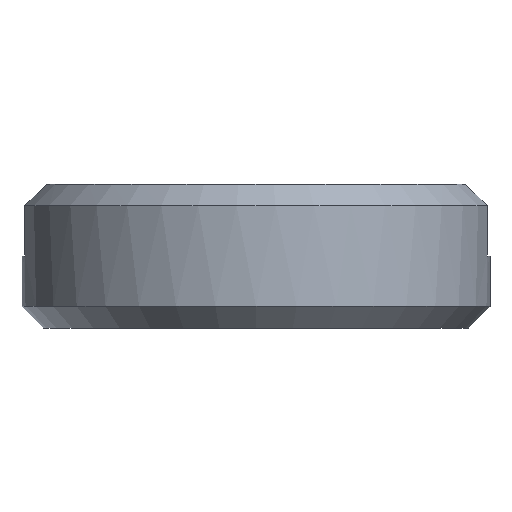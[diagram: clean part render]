
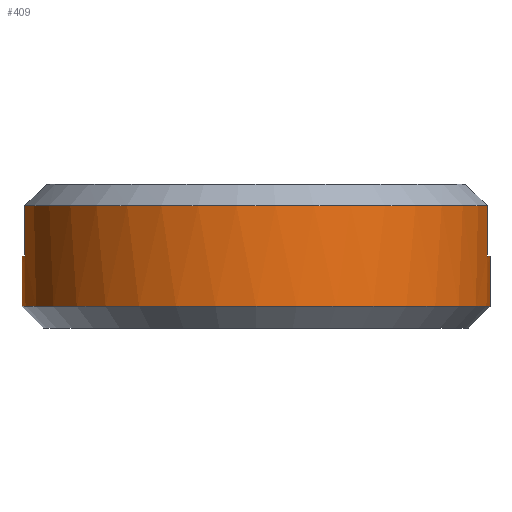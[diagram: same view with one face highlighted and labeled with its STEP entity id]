
A CAD part, front view. The second image highlights one B-rep face of the part: STEP entity #409.
In plain terms, the highlighted cylindrical face has radius 3.25 mm (diameter 6.5 mm), a partial arc.
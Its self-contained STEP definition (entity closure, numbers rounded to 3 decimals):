
#6 = CARTESIAN_POINT ( 'NONE',  ( -3.211, -0.5, 1. ) ) ;
#26 = ORIENTED_EDGE ( 'NONE', *, *, #128, .T. ) ;
#43 = LINE ( 'NONE', #225, #147 ) ;
#45 = DIRECTION ( 'NONE',  ( 0., 0., -1. ) ) ;
#47 = CARTESIAN_POINT ( 'NONE',  ( 0., 0., 1. ) ) ;
#57 = DIRECTION ( 'NONE',  ( 0., 0., -1. ) ) ;
#72 = CYLINDRICAL_SURFACE ( 'NONE', #216, 3.25 ) ;
#74 = CARTESIAN_POINT ( 'NONE',  ( -3.25, 0., 2. ) ) ;
#78 = CARTESIAN_POINT ( 'NONE',  ( 3.25, 0., 0.3 ) ) ;
#89 = LINE ( 'NONE', #272, #159 ) ;
#101 = AXIS2_PLACEMENT_3D ( 'NONE', #47, #355, #357 ) ;
#110 = EDGE_LOOP ( 'NONE', ( #375, #530, #193, #302, #26, #368, #561, #240 ) ) ;
#117 = DIRECTION ( 'NONE',  ( 0., 0., -1. ) ) ;
#121 = CIRCLE ( 'NONE', #555, 3.25 ) ;
#128 = EDGE_CURVE ( 'NONE', #340, #227, #89, .T. ) ;
#147 = VECTOR ( 'NONE', #179, 1000. ) ;
#159 = VECTOR ( 'NONE', #45, 1000. ) ;
#169 = CARTESIAN_POINT ( 'NONE',  ( 3.211, -0.5, 1. ) ) ;
#179 = DIRECTION ( 'NONE',  ( 0., 0., -1. ) ) ;
#193 = ORIENTED_EDGE ( 'NONE', *, *, #384, .T. ) ;
#194 = VECTOR ( 'NONE', #479, 1000. ) ;
#216 = AXIS2_PLACEMENT_3D ( 'NONE', #432, #117, #299 ) ;
#218 = VERTEX_POINT ( 'NONE', #381 ) ;
#225 = CARTESIAN_POINT ( 'NONE',  ( 3.25, 0., 2. ) ) ;
#227 = VERTEX_POINT ( 'NONE', #6 ) ;
#230 = EDGE_CURVE ( 'NONE', #509, #218, #506, .T. ) ;
#240 = ORIENTED_EDGE ( 'NONE', *, *, #529, .T. ) ;
#241 = DIRECTION ( 'NONE',  ( 1., 0., 0. ) ) ;
#248 = DIRECTION ( 'NONE',  ( 0., 0., 1. ) ) ;
#267 = AXIS2_PLACEMENT_3D ( 'NONE', #404, #401, #565 ) ;
#272 = CARTESIAN_POINT ( 'NONE',  ( -3.211, -0.5, 2. ) ) ;
#292 = VERTEX_POINT ( 'NONE', #514 ) ;
#299 = DIRECTION ( 'NONE',  ( -1., 0., 0. ) ) ;
#302 = ORIENTED_EDGE ( 'NONE', *, *, #469, .T. ) ;
#322 = EDGE_CURVE ( 'NONE', #525, #520, #347, .T. ) ;
#328 = AXIS2_PLACEMENT_3D ( 'NONE', #545, #248, #456 ) ;
#338 = DIRECTION ( 'NONE',  ( 0., 0., 1. ) ) ;
#340 = VERTEX_POINT ( 'NONE', #563 ) ;
#342 = CIRCLE ( 'NONE', #101, 3.25 ) ;
#347 = LINE ( 'NONE', #74, #194 ) ;
#353 = CARTESIAN_POINT ( 'NONE',  ( -3.25, 0., 0.3 ) ) ;
#355 = DIRECTION ( 'NONE',  ( 0., 0., 1. ) ) ;
#357 = DIRECTION ( 'NONE',  ( 1., 0., 0. ) ) ;
#368 = ORIENTED_EDGE ( 'NONE', *, *, #546, .F. ) ;
#375 = ORIENTED_EDGE ( 'NONE', *, *, #531, .F. ) ;
#381 = CARTESIAN_POINT ( 'NONE',  ( 3.25, 0., 1. ) ) ;
#384 = EDGE_CURVE ( 'NONE', #509, #292, #522, .T. ) ;
#394 = CARTESIAN_POINT ( 'NONE',  ( 3.211, -0.5, 2. ) ) ;
#400 = VERTEX_POINT ( 'NONE', #78 ) ;
#401 = DIRECTION ( 'NONE',  ( 0., 0., 1. ) ) ;
#404 = CARTESIAN_POINT ( 'NONE',  ( 0., 0., 0.3 ) ) ;
#409 = ADVANCED_FACE ( 'NONE', ( #476 ), #72, .T. ) ;
#431 = CARTESIAN_POINT ( 'NONE',  ( 0., 0., 1.7 ) ) ;
#432 = CARTESIAN_POINT ( 'NONE',  ( 0., 0., 2. ) ) ;
#445 = CIRCLE ( 'NONE', #267, 3.25 ) ;
#456 = DIRECTION ( 'NONE',  ( 1., 0., 0. ) ) ;
#469 = EDGE_CURVE ( 'NONE', #292, #340, #121, .T. ) ;
#476 = FACE_OUTER_BOUND ( 'NONE', #110, .T. ) ;
#479 = DIRECTION ( 'NONE',  ( 0., 0., -1. ) ) ;
#506 = CIRCLE ( 'NONE', #328, 3.25 ) ;
#509 = VERTEX_POINT ( 'NONE', #169 ) ;
#514 = CARTESIAN_POINT ( 'NONE',  ( 3.211, -0.5, 1.7 ) ) ;
#520 = VERTEX_POINT ( 'NONE', #353 ) ;
#522 = LINE ( 'NONE', #394, #537 ) ;
#525 = VERTEX_POINT ( 'NONE', #581 ) ;
#529 = EDGE_CURVE ( 'NONE', #520, #400, #445, .T. ) ;
#530 = ORIENTED_EDGE ( 'NONE', *, *, #230, .F. ) ;
#531 = EDGE_CURVE ( 'NONE', #218, #400, #43, .T. ) ;
#537 = VECTOR ( 'NONE', #338, 1000. ) ;
#545 = CARTESIAN_POINT ( 'NONE',  ( 0., 0., 1. ) ) ;
#546 = EDGE_CURVE ( 'NONE', #525, #227, #342, .T. ) ;
#555 = AXIS2_PLACEMENT_3D ( 'NONE', #431, #57, #241 ) ;
#561 = ORIENTED_EDGE ( 'NONE', *, *, #322, .T. ) ;
#563 = CARTESIAN_POINT ( 'NONE',  ( -3.211, -0.5, 1.7 ) ) ;
#565 = DIRECTION ( 'NONE',  ( 1., 0., 0. ) ) ;
#581 = CARTESIAN_POINT ( 'NONE',  ( -3.25, 0., 1. ) ) ;
